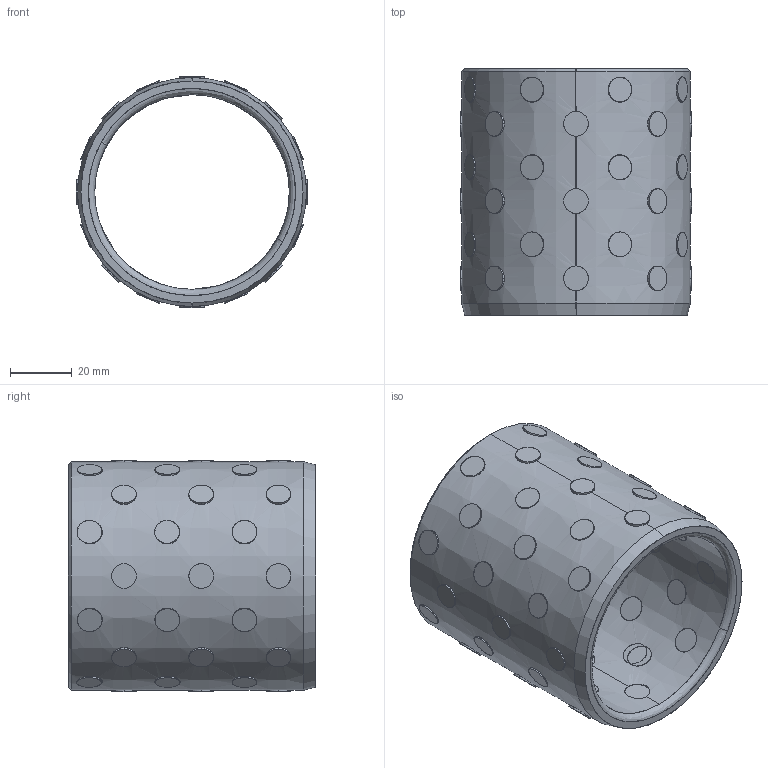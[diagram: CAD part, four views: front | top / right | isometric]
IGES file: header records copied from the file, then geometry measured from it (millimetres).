
Start section: SolidWorks IGES file using analytic representation for surfaces
Global section: file name: C:\Users\Dell\Desktop\deltakont\hatalýlar\D30.04\Ø63\D30.04_638074.IGS; native system: SolidWorks 2010; preprocessor: SolidWorks 2010; author: Dell; date: 111224.215450; units: millimetre
Bounding box: 75 x 80 x 75 mm (x, y, z)
Surface area: 50489 mm2 (no closed solid volume)
Topology: 0 solids, 0 shells, 310 faces, 9440 edges, 9440 vertices
Faces by surface type: revolution 204, bspline 106
